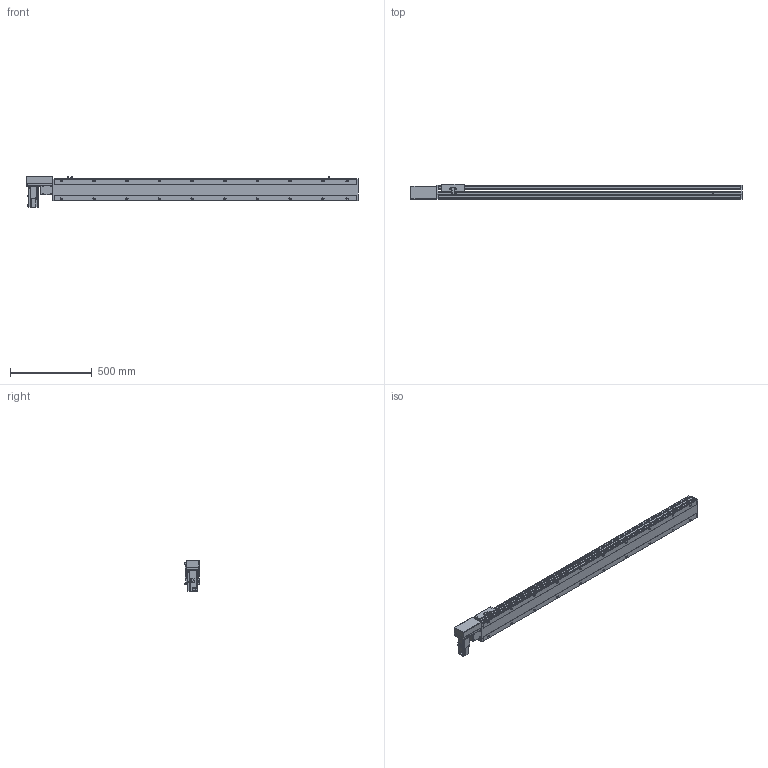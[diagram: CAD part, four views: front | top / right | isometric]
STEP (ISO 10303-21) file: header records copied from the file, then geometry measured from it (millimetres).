
FILE_DESCRIPTION(/* description */ ('STEP AP214'),/* implementation_level */ '2;1');
FILE_NAME(/* name */ 'PBS140S-P40-S1600-R-T40-C1-N(0)',/* time_stamp */ '2022-06-09T02:17:56+02:00',/* author */ ('License CC BY-ND 4.0'),/* organization */ ('CADENAS'),/* preprocessor_version */ 'ST-DEVELOPER v18.102',/* originating_system */ 'PARTsolutions',/* authorisation */ ' ');
FILE_SCHEMA (('AUTOMOTIVE_DESIGN {1 0 10303 214 3 1 1}'));
Length unit declared in the file: millimetre
Products named in the file (7): PBS140S-P40-S1600-R-T40-C1-N(0); PBS140S_sensor; PBS140S_plant; PBS140S_sliser; T40-p1; PBS140ST-R_motors; PBS140S-S1600()_body
Assembly tree (8 placements, depth 2):
  PBS140S-P40-S1600-R-T40-C1-N(0)
    PBS140S_sensor  x3
    PBS140S_plant
    PBS140S_sliser
    T40-p1
    PBS140ST-R_motors
    PBS140S-S1600()_body
Bounding box: 2033 x 93 x 189.7 mm (x, y, z)
Volume: 9772109.8 mm3; surface area: 1666023.5 mm2
Topology: 8 solids, 8 shells, 1131 faces, 2991 edges, 1957 vertices
Faces by surface type: plane 714, cylinder 361, cone 46, sphere 8, torus 2
Full cylindrical faces by diameter (mm): 3.242 x4, 4 x2, 4.134 x4, 4.4 x8, 4.5 x2, 4.8 x4, 4.917 x28, 5.5 x7, 6 x2, 7 x22, 7.5 x8, 8 x12, 8.5 x4, 10.5 x20, 14 x1, 30 x2, 50 x2
Entity records: 32412 total; most frequent: CARTESIAN_POINT 6040, DIRECTION 5488, ORIENTED_EDGE 5182, EDGE_CURVE 2591, AXIS2_PLACEMENT_3D 1919, VERTEX_POINT 1801, LINE 1650, VECTOR 1650
